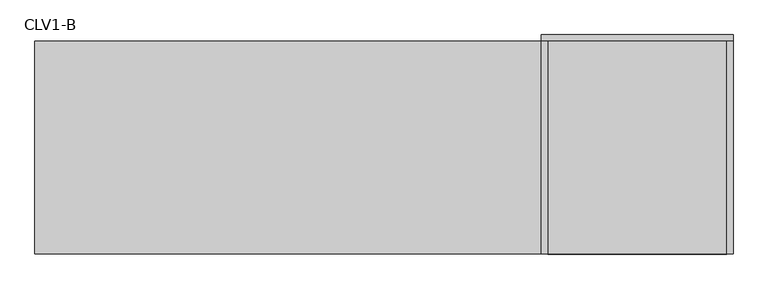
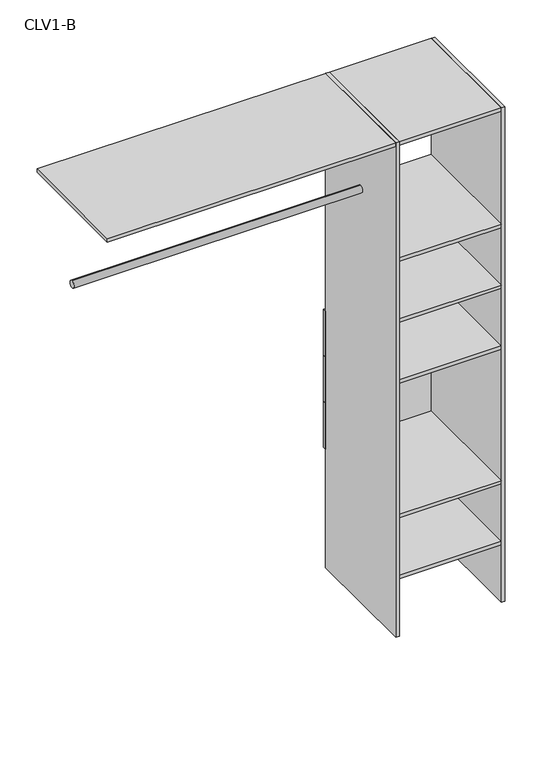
"""IFC4 building model written with IfcOpenShell, lengths in millimetres: furniture geometry, Closet 1estantes-1tubos_sin laterales : CLV1-B."""

import ifcopenshell
import ifcopenshell.guid

model = None  # the IFC model being written
_history = None  # IfcOwnerHistory: only IFC2X3 demands one
_inside = {}  # id of a spatial element -> (the spatial element, [elements in it])
_under = {}  # id of a project, library or spatial element -> (it, [spatial elements below it])
_declared = {}  # id of a project -> (the project, [libraries it declares])
_typed = {}  # id of a type object -> (the type object, [elements of that type])
_made_of = {}  # id of a material, layer set ... -> (it, [elements and type objects made of it])


def new_model(schema):
    """Start an empty IFC model of exactly this schema.

    Asked for "IFC4X3", IfcOpenShell would pick the latest addendum, in which some entities
    have other attributes; the version numbers below select the first issue.
    IFC2X3 requires an IfcOwnerHistory on every rooted entity: one is made here for all.
    """
    global model, _history
    if schema == "IFC4X3":
        model = ifcopenshell.file(schema_version=(4, 3, 0, 0))
    else:
        model = ifcopenshell.file(schema=schema)
    _inside.clear()
    _under.clear()
    _declared.clear()
    _typed.clear()
    _made_of.clear()
    _history = None
    if model.schema == "IFC2X3":
        org = make("IfcOrganization", Name="unknown")
        user = make(
            "IfcPersonAndOrganization",
            ThePerson=make("IfcPerson", FamilyName="unknown"),
            TheOrganization=org,
        )
        app = make(
            "IfcApplication",
            ApplicationDeveloper=org,
            Version="unknown",
            ApplicationFullName="unknown",
            ApplicationIdentifier="unknown",
        )
        _history = make(
            "IfcOwnerHistory",
            OwningUser=user,
            OwningApplication=app,
            ChangeAction="ADDED",
            CreationDate=0,
        )
    return model


def make(cls, **values):
    """One entity of the class cls with the attributes given. An attribute that is None is left unset."""
    return model.create_entity(
        cls, **{name: value for name, value in values.items() if value is not None}
    )


def rooted(cls, **values):
    """An entity with a GlobalId (a new one), such as an element, a storey or a relation."""
    return make(cls, GlobalId=ifcopenshell.guid.new(), OwnerHistory=_history, **values)


def si_unit(unit_type, name, prefix=None):
    """IfcSIUnit, for example si_unit("LENGTHUNIT", "METRE", prefix="MILLI")."""
    return make("IfcSIUnit", UnitType=unit_type, Prefix=prefix, Name=name)


def assignment(units):
    """IfcUnitAssignment: the units of a project."""
    return None if units is None else make("IfcUnitAssignment", Units=units)


def point(xyz):
    """IfcCartesianPoint."""
    return None if xyz is None else make("IfcCartesianPoint", Coordinates=xyz)


def direction(xyz):
    """IfcDirection."""
    return None if xyz is None else make("IfcDirection", DirectionRatios=xyz)


def frame(location, z_axis=None, x_axis=None):
    """IfcAxis2Placement3D, a coordinate frame: its origin and axes. An axis left out is left unset."""
    return make(
        "IfcAxis2Placement3D",
        Location=point(location),
        Axis=direction(z_axis),
        RefDirection=direction(x_axis),
    )


def frame_2d(location, x_axis=None):
    """IfcAxis2Placement2D, a coordinate frame in the plane: its origin and x axis."""
    return make(
        "IfcAxis2Placement2D", Location=point(location), RefDirection=direction(x_axis)
    )


def origin():
    """The frame at (0, 0, 0) with its axes left unset."""
    return frame((0.0, 0.0, 0.0))


def origin_with_axes():
    """The frame at (0, 0, 0) with the z axis (0, 0, 1) and the x axis (1, 0, 0) written out."""
    return frame((0.0, 0.0, 0.0), z_axis=(0.0, 0.0, 1.0), x_axis=(1.0, 0.0, 0.0))


def place(relative_to, where):
    """IfcLocalPlacement: puts the frame where relative to a parent placement (None: the world)."""
    return make(
        "IfcLocalPlacement", PlacementRelTo=relative_to, RelativePlacement=where
    )


def context(
    kind, dimensions, precision=None, world=None, true_north=None, identifier=None
):
    """IfcGeometricRepresentationContext, for example the 3D "Model" context."""
    return make(
        "IfcGeometricRepresentationContext",
        ContextIdentifier=identifier,
        ContextType=kind,
        CoordinateSpaceDimension=dimensions,
        Precision=precision,
        WorldCoordinateSystem=world,
        TrueNorth=true_north,
    )


def project(units=None, contexts=None):
    """IfcProject with its units and contexts."""
    return rooted(
        "IfcProject",
        Name="project",
        RepresentationContexts=contexts,
        UnitsInContext=assignment(units),
    )


def spatial(cls, under=None, at=None, **own):
    """A site, building, storey or space (cls), placed at a placement, below another one or the project."""
    s = rooted(cls, ObjectPlacement=at, **own)
    if under is not None:
        _under.setdefault(under.id(), (under, []))[1].append(s)
    return s


def polyline(points):
    """IfcPolyline through the points."""
    return make("IfcPolyline", Points=[point(p) for p in points])


def circle_curve(where, radius):
    """IfcCircle in the frame where."""
    return make("IfcCircle", Position=where, Radius=radius)


def trimmed(basis, trim1, trim2, sense, master):
    """IfcTrimmedCurve: the piece of a basis curve between two trims."""
    return make(
        "IfcTrimmedCurve",
        BasisCurve=basis,
        Trim1=trim1,
        Trim2=trim2,
        SenseAgreement=sense,
        MasterRepresentation=master,
    )


def segment(curve, same_sense, transition):
    """IfcCompositeCurveSegment."""
    return make(
        "IfcCompositeCurveSegment",
        Transition=transition,
        SameSense=same_sense,
        ParentCurve=curve,
    )


def composite_curve(segments, self_intersect=None):
    """IfcCompositeCurve: segments joined end to end."""
    return make("IfcCompositeCurve", Segments=segments, SelfIntersect=self_intersect)


def outline(outer, holes=None, kind="AREA"):
    """IfcArbitraryClosedProfileDef: a profile drawn as a closed curve; with holes, ...WithVoids."""
    if holes is None:
        return make("IfcArbitraryClosedProfileDef", ProfileType=kind, OuterCurve=outer)
    return make(
        "IfcArbitraryProfileDefWithVoids",
        ProfileType=kind,
        OuterCurve=outer,
        InnerCurves=holes,
    )


def extrude(swept, where, along, depth):
    """IfcExtrudedAreaSolid: the profile swept, set in the frame where, extruded along a direction by depth."""
    return make(
        "IfcExtrudedAreaSolid",
        SweptArea=swept,
        Position=where,
        ExtrudedDirection=direction(along),
        Depth=depth,
    )


def shape(context_of_items, identifier, shape_type, items):
    """IfcShapeRepresentation: the items that make up one representation, for example the "Body"."""
    return make(
        "IfcShapeRepresentation",
        ContextOfItems=context_of_items,
        RepresentationIdentifier=identifier,
        RepresentationType=shape_type,
        Items=items,
    )


def source(mapping_origin, context_of_items, identifier, shape_type, items):
    """IfcRepresentationMap: a shape defined once, which mapped items show again and again."""
    return make(
        "IfcRepresentationMap",
        MappingOrigin=mapping_origin,
        MappedRepresentation=shape(context_of_items, identifier, shape_type, items),
    )


def transform(
    local_origin,
    x_axis=None,
    y_axis=None,
    z_axis=None,
    scale=None,
    scale2=None,
    scale3=None,
    uniform=True,
):
    """IfcCartesianTransformationOperator3D, or its non-uniform kind. x_axis, y_axis, z_axis: its Axis1, 2, 3."""
    if uniform:
        return make(
            "IfcCartesianTransformationOperator3D",
            Axis1=direction(x_axis),
            Axis2=direction(y_axis),
            LocalOrigin=point(local_origin),
            Scale=scale,
            Axis3=direction(z_axis),
        )
    return make(
        "IfcCartesianTransformationOperator3DnonUniform",
        Axis1=direction(x_axis),
        Axis2=direction(y_axis),
        LocalOrigin=point(local_origin),
        Scale=scale,
        Axis3=direction(z_axis),
        Scale2=scale2,
        Scale3=scale3,
    )


def mapped(mapping_source, mapping_target):
    """IfcMappedItem: shows the shape of a source again, moved by a transform."""
    return make(
        "IfcMappedItem", MappingSource=mapping_source, MappingTarget=mapping_target
    )


def made_of(thing, what):
    """Note that an element or type object is made of a material, layer set ...; save() writes the relation."""
    if what is not None:
        _made_of.setdefault(what.id(), (what, []))[1].append(thing)
    return thing


def element(
    cls,
    number,
    at=None,
    inside=None,
    cuts=None,
    type_object=None,
    material=None,
    context=None,
    identifier="Body",
    shape_type=None,
    held_by="IfcProductDefinitionShape",
    body=None,
    shapes=None,
    **own,
):
    """One element of the class cls, such as IfcWall. Its Tag is "e" and its number.

    at: its placement. inside: the storey or other place that contains it. cuts: it is an
    opening in that element (IfcRelVoidsElement). A single representation is given by context,
    identifier, shape_type and body (its items); several are given by shapes. held_by: the class
    of the entity that holds the representations. save() writes the other relations.
    """
    e = rooted(cls, Tag="e%d" % number, ObjectPlacement=at, **own)
    if body is not None:
        shapes = [shape(context, identifier, shape_type, body)]
    if shapes is not None:
        e.Representation = make(held_by, Representations=shapes)
    if inside is not None:
        _inside.setdefault(inside.id(), (inside, []))[1].append(e)
    if cuts is not None:
        rooted(
            "IfcRelVoidsElement", RelatingBuildingElement=cuts, RelatedOpeningElement=e
        )
    if type_object is not None:
        _typed.setdefault(type_object.id(), (type_object, []))[1].append(e)
    return made_of(e, material)


def aggregate(whole, parts):
    """IfcRelAggregates: a whole, such as a stair, and the parts it consists of."""
    return rooted("IfcRelAggregates", RelatingObject=whole, RelatedObjects=parts)


def save(model, path):
    """Write the relations noted so far, then the file.

    IfcRelAggregates (storeys below a building ...), IfcRelContainedInSpatialStructure (elements
    in a storey), IfcRelDefinesByType, IfcRelAssociatesMaterial and IfcRelDeclares: one each for
    every whole, place, type object, material and project.
    """
    for whole, parts in _under.values():
        aggregate(whole, parts)
    for where, things in _inside.values():
        rooted(
            "IfcRelContainedInSpatialStructure",
            RelatedElements=things,
            RelatingStructure=where,
        )
    for kind, things in _typed.values():
        rooted("IfcRelDefinesByType", RelatedObjects=things, RelatingType=kind)
    for what, things in _made_of.values():
        rooted("IfcRelAssociatesMaterial", RelatedObjects=things, RelatingMaterial=what)
    for by, libraries in _declared.values():
        rooted("IfcRelDeclares", RelatingContext=by, RelatedDefinitions=libraries)
    model.write(path)


def clv1_b_26205cb8(model_context):
    return source(origin(), model_context, "Body", "SweptSolid", [
        extrude(outline(polyline([(225.0, -100.0), (225.0, -600.0), (210.0, -600.0), (210.0, -100.0), (225.0, -100.0)])), origin_with_axes(), (0.0, 0.0, 1.0), 2150.0),
        extrude(outline(polyline([(-210.0, -100.0), (-210.0, -600.0), (-225.0, -600.0), (-225.0, -100.0), (-210.0, -100.0)])), origin_with_axes(), (0.0, 0.0, 1.0), 2150.0),
        extrude(outline(polyline([(225.0, -100.0), (-225.0, -100.0), (-225.0, -85.0), (225.0, -85.0), (225.0, -100.0)])), frame((0.0, 0.0, 915.0), z_axis=(0.0, 0.0, 1.0), x_axis=(1.0, 0.0, 0.0)), (0.0, 0.0, 1.0), 200.0),
        extrude(outline(polyline([(225.0, -100.0), (-225.0, -100.0), (-225.0, -85.0), (225.0, -85.0), (225.0, -100.0)])), frame((0.0, 0.0, 715.0), z_axis=(0.0, 0.0, 1.0), x_axis=(1.0, 0.0, 0.0)), (0.0, 0.0, 1.0), 200.0),
        extrude(outline(polyline([(225.0, -100.0), (-225.0, -100.0), (-225.0, -85.0), (225.0, -85.0), (225.0, -100.0)])), frame((0.0, 0.0, 515.0), z_axis=(0.0, 0.0, 1.0), x_axis=(1.0, 0.0, 0.0)), (0.0, 0.0, 1.0), 200.0),
        extrude(outline(polyline([(210.0, -100.0), (210.0, -600.0), (-210.0, -600.0), (-210.0, -100.0), (210.0, -100.0)])), frame((0.0, 0.0, 1100.0), z_axis=(0.0, 0.0, 1.0), x_axis=(1.0, 0.0, 0.0)), (0.0, 0.0, 1.0), 15.0),
        extrude(outline(composite_curve([segment(trimmed(circle_curve(frame_2d((-350.0, 1800.0)), 15.0), [point((-350.0, 1815.0))], [point((-350.0, 1785.0))], False, "CARTESIAN"), True, "CONTINUOUS"), segment(trimmed(circle_curve(frame_2d((-350.0, 1800.0)), 15.0), [point((-350.0, 1785.0))], [point((-350.0, 1815.0))], False, "CARTESIAN"), True, "CONTINUOUS")], self_intersect=False)), frame((-1413.0, 0.0, 0.0), z_axis=(1.0, 0.0, 0.0), x_axis=(0.0, 1.0, 0.0)), (0.0, 0.0, 1.0), 1188.0),
        extrude(outline(composite_curve([segment(trimmed(circle_curve(frame_2d((-350.0, 1800.0)), 15.0), [point((-350.0, 1815.0))], [point((-350.0, 1785.0))], False, "CARTESIAN"), True, "CONTINUOUS"), segment(trimmed(circle_curve(frame_2d((-350.0, 1800.0)), 15.0), [point((-350.0, 1785.0))], [point((-350.0, 1815.0))], False, "CARTESIAN"), True, "CONTINUOUS")], self_intersect=False)), frame((-1413.0, 0.0, 0.0), z_axis=(1.0, 0.0, 0.0), x_axis=(0.0, 1.0, 0.0)), (0.0, 0.0, 1.0), 1188.0),
        extrude(outline(polyline([(210.0, -100.0), (210.0, -600.0), (-210.0, -600.0), (-210.0, -100.0), (210.0, -100.0)])), frame((0.0, 0.0, 250.0), z_axis=(0.0, 0.0, 1.0), x_axis=(1.0, 0.0, 0.0)), (0.0, 0.0, 1.0), 15.0),
        extrude(outline(polyline([(210.0, -100.0), (210.0, -600.0), (-210.0, -600.0), (-210.0, -100.0), (210.0, -100.0)])), frame((0.0, 0.0, 515.0), z_axis=(0.0, 0.0, 1.0), x_axis=(1.0, 0.0, 0.0)), (0.0, 0.0, 1.0), 15.0),
        extrude(outline(polyline([(210.0, -100.0), (210.0, -600.0), (-210.0, -600.0), (-210.0, -100.0), (210.0, -100.0)])), frame((0.0, 0.0, 1365.0), z_axis=(0.0, 0.0, 1.0), x_axis=(1.0, 0.0, 0.0)), (0.0, 0.0, 1.0), 15.0),
        extrude(outline(polyline([(210.0, -100.0), (210.0, -600.0), (-210.0, -600.0), (-210.0, -100.0), (210.0, -100.0)])), frame((0.0, 0.0, 1630.0), z_axis=(0.0, 0.0, 1.0), x_axis=(1.0, 0.0, 0.0)), (0.0, 0.0, 1.0), 15.0),
        extrude(outline(polyline([(-210.0, -100.0), (-210.0, -600.0), (-1413.0, -600.0), (-1413.0, -100.0), (-210.0, -100.0)])), frame((0.0, 0.0, 2135.0), z_axis=(0.0, 0.0, 1.0), x_axis=(1.0, 0.0, 0.0)), (0.0, 0.0, 1.0), 15.0),
        extrude(outline(polyline([(210.0, -100.0), (210.0, -600.0), (-210.0, -600.0), (-210.0, -100.0), (210.0, -100.0)])), frame((0.0, 0.0, 2135.0), z_axis=(0.0, 0.0, 1.0), x_axis=(1.0, 0.0, 0.0)), (0.0, 0.0, 1.0), 15.0),
    ])


if __name__ == "__main__":
    model = new_model("IFC4")
    model_context = context("Model", 3, world=origin())
    ifc_project = project(units=[si_unit("LENGTHUNIT", "METRE", prefix="MILLI")], contexts=[model_context])
    site = spatial("IfcSite", under=ifc_project)
    building = spatial("IfcBuilding", under=site)
    placement = place(None, origin())
    clv1_b_shape = clv1_b_26205cb8(model_context)
    element("IfcFurniture", 1, ObjectType="Closet 1estantes-1tubos_sin laterales : CLV1-B", at=placement, inside=building, context=model_context, shape_type="MappedRepresentation", body=[
        mapped(clv1_b_shape, transform((0.0, 0.0, 0.0), x_axis=(1.0, 0.0, 0.0), y_axis=(0.0, 1.0, 0.0), z_axis=(0.0, 0.0, 1.0))),
    ])
    save(model, "model.ifc")
